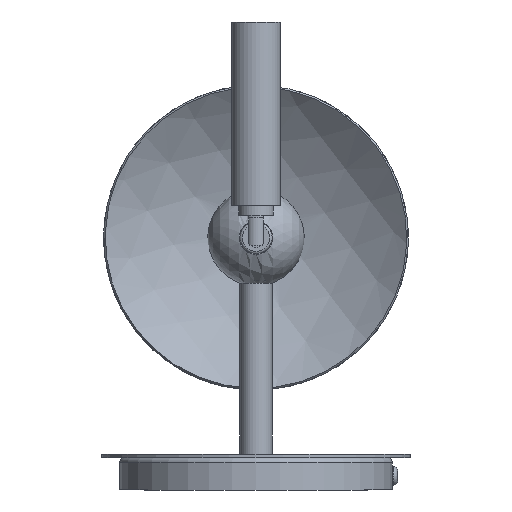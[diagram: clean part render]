
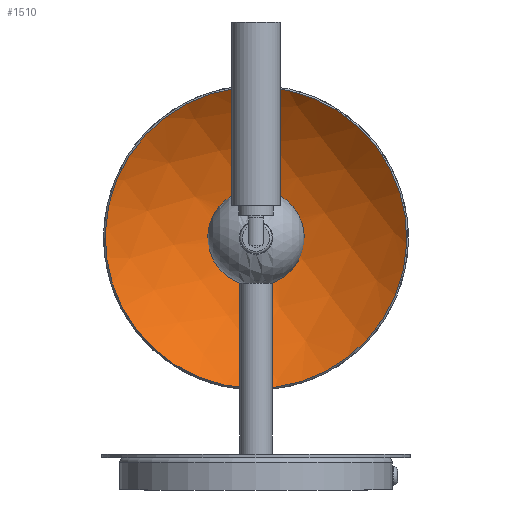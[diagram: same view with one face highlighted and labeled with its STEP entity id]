
A CAD part, front view. The second image highlights one B-rep face of the part: STEP entity #1510.
In plain terms, the highlighted spherical face has radius 90 mm.
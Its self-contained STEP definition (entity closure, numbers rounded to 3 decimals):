
#103=FACE_BOUND('',#313,.T.);
#112=SPHERICAL_SURFACE('',#1735,90.);
#201=FACE_OUTER_BOUND('',#312,.T.);
#312=EDGE_LOOP('',(#1290));
#313=EDGE_LOOP('',(#1291));
#429=CIRCLE('',#1729,60.832);
#432=CIRCLE('',#1734,14.5);
#703=VERTEX_POINT('',#2959);
#706=VERTEX_POINT('',#2968);
#897=EDGE_CURVE('',#703,#703,#429,.T.);
#901=EDGE_CURVE('',#706,#706,#432,.T.);
#1290=ORIENTED_EDGE('',*,*,#897,.F.);
#1291=ORIENTED_EDGE('',*,*,#901,.T.);
#1510=ADVANCED_FACE('',(#201,#103),#112,.F.);
#1729=AXIS2_PLACEMENT_3D('',#2961,#2197,#2198);
#1734=AXIS2_PLACEMENT_3D('',#2970,#2208,#2209);
#1735=AXIS2_PLACEMENT_3D('',#2971,#2210,#2211);
#2197=DIRECTION('center_axis',(0.,1.,0.));
#2198=DIRECTION('ref_axis',(-0.609,0.,0.793));
#2208=DIRECTION('center_axis',(0.,1.,0.));
#2209=DIRECTION('ref_axis',(-0.609,0.,0.793));
#2210=DIRECTION('center_axis',(-0.793,0.,
-0.609));
#2211=DIRECTION('ref_axis',(-0.609,0.,0.793));
#2959=CARTESIAN_POINT('',(-37.027,207.547,137.061));
#2961=CARTESIAN_POINT('Origin',(0.,207.547,
88.797));
#2968=CARTESIAN_POINT('',(-8.826,230.043,100.301));
#2970=CARTESIAN_POINT('Origin',(0.,230.043,
88.797));
#2971=CARTESIAN_POINT('Origin',(0.,141.218,88.797));
